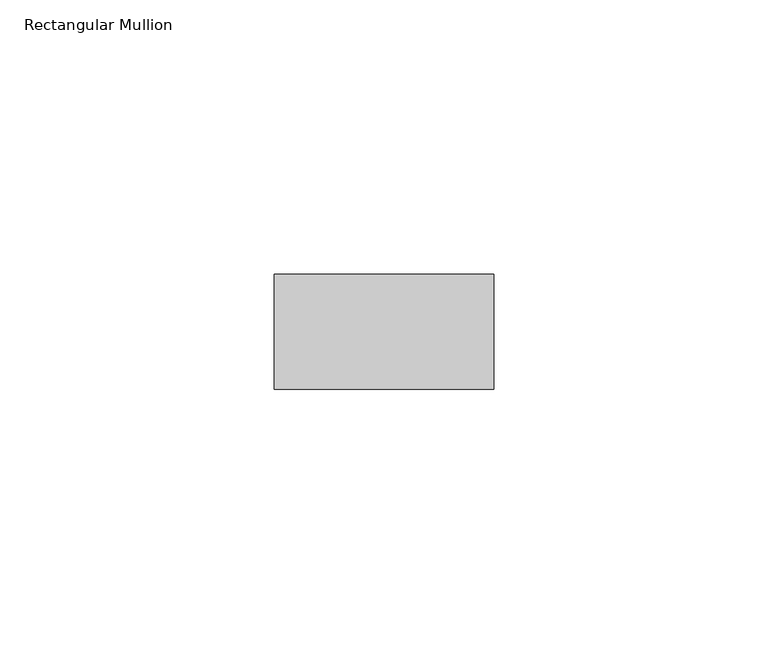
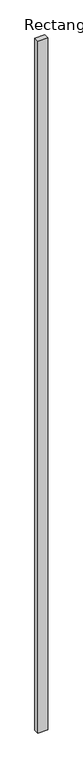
"""IFC4 building model written with IfcOpenShell, lengths in millimetres: member geometry, Rectangular Mullion : RSen_21_CWM_support profile - 40x21 - gen_duco projects."""

from ifc_helpers import new_model, si_unit, frame, origin, place, context, project, spatial, polyline, outline, extrude, source, transform, mapped, element, save


def rectangular_mullion_3b23135f(model_context):
    return source(origin(), model_context, "Body", "SweptSolid", [
        extrude(outline(polyline([(20.0, 0.0), (20.0, -21.0), (-20.0, -21.0), (-20.0, 0.0), (20.0, 0.0)])), frame((0.0, 0.0, -3000.0), z_axis=(0.0, 0.0, 1.0), x_axis=(1.0, 0.0, 0.0)), (0.0, 0.0, 1.0), 3000.0),
    ])


if __name__ == "__main__":
    model = new_model("IFC4")
    model_context = context("Model", 3, world=origin())
    ifc_project = project(units=[si_unit("LENGTHUNIT", "METRE", prefix="MILLI")], contexts=[model_context])
    site = spatial("IfcSite", under=ifc_project)
    building = spatial("IfcBuilding", under=site)
    placement = place(None, origin())
    rectangular_mullion_shape = rectangular_mullion_3b23135f(model_context)
    element("IfcMember", 1, ObjectType="Rectangular Mullion : RSen_21_CWM_support profile - 40x21 - gen_duco projects", at=placement, inside=building, context=model_context, shape_type="MappedRepresentation", body=[
        mapped(rectangular_mullion_shape, transform((0.0, 0.0, 0.0), x_axis=(1.0, 0.0, 0.0), y_axis=(0.0, 1.0, 0.0), z_axis=(0.0, 0.0, 1.0))),
    ])
    save(model, "model.ifc")
